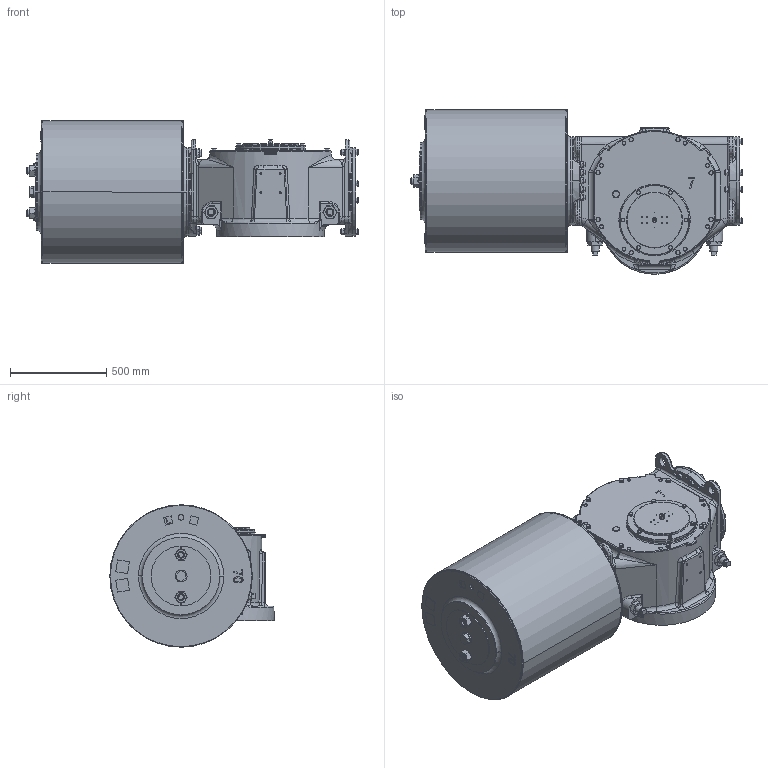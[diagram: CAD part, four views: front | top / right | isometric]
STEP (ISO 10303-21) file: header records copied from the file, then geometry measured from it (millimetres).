
FILE_DESCRIPTION (( 'STEP AP203' ), '1' );
FILE_NAME ('VTS7-700.STEP', '2023-01-01T10:16:19', ( '' ), ( '' ), 'SwSTEP 2.0', 'SolidWorks 2020', '' );
FILE_SCHEMA (( 'CONFIG_CONTROL_DESIGN' ));
Length unit declared in the file: millimetre
Products named in the file (1): VTS7-700
Bounding box: 1722.71 x 852.5 x 739 mm (x, y, z)
Volume: 512381997.4 mm3; surface area: 6292826.1 mm2
Topology: 51 solids, 51 shells, 3294 faces, 8184 edges, 5005 vertices
Faces by surface type: plane 1138, cylinder 1026, cone 780, bspline 342, torus 8
Entity records: 125342 total; most frequent: CARTESIAN_POINT 49738, ORIENTED_EDGE 16044, DIRECTION 15667, EDGE_CURVE 8022, AXIS2_PLACEMENT_3D 6290, VERTEX_POINT 5005, EDGE_LOOP 3597, CIRCLE 3337
